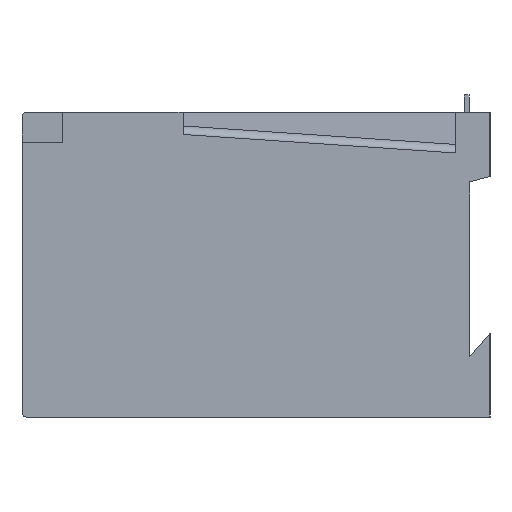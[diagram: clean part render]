
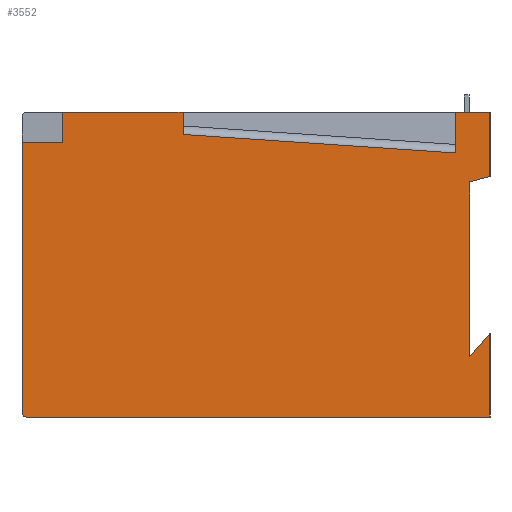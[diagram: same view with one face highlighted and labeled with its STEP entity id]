
A CAD part, left-side view. The second image highlights one B-rep face of the part: STEP entity #3552.
In plain terms, the highlighted planar face has unit normal (-1, 0, 0).
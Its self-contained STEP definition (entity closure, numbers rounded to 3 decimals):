
#114 = CARTESIAN_POINT ( 'NONE',  ( -55.5, 109., -34.5 ) ) ;
#129 = CARTESIAN_POINT ( 'NONE',  ( -55.5, 0., -16. ) ) ;
#180 = CARTESIAN_POINT ( 'NONE',  ( -55.5, 71.5, 30.3 ) ) ;
#196 = DIRECTION ( 'NONE',  ( 0., 0., -1. ) ) ;
#197 = DIRECTION ( 'NONE',  ( -1., 0., 0. ) ) ;
#198 = CARTESIAN_POINT ( 'NONE',  ( -55.5, 108., -34.5 ) ) ;
#199 = DIRECTION ( 'NONE',  ( 0., -1., 0. ) ) ;
#200 = VECTOR ( 'NONE', #199, 1000. ) ;
#201 = CARTESIAN_POINT ( 'NONE',  ( -55.5, 109., -35.5 ) ) ;
#202 = LINE ( 'NONE', #201, #200 ) ;
#205 = DIRECTION ( 'NONE',  ( 0., 0.967, -0.254 ) ) ;
#206 = VECTOR ( 'NONE', #205, 1000. ) ;
#207 = CARTESIAN_POINT ( 'NONE',  ( -55.5, 4.75, 19.25 ) ) ;
#208 = LINE ( 'NONE', #207, #206 ) ;
#209 = AXIS2_PLACEMENT_3D ( 'NONE', #198, #197, #196 ) ;
#210 = CARTESIAN_POINT ( 'NONE',  ( -55.5, 108., -35.5 ) ) ;
#219 = CIRCLE ( 'NONE', #209, 1. ) ;
#221 = CARTESIAN_POINT ( 'NONE',  ( -55.5, 71.5, 35.5 ) ) ;
#225 = DIRECTION ( 'NONE',  ( 0., 0., 1. ) ) ;
#226 = VECTOR ( 'NONE', #225, 1000. ) ;
#227 = CARTESIAN_POINT ( 'NONE',  ( -55.5, 0., -35.5 ) ) ;
#228 = LINE ( 'NONE', #227, #226 ) ;
#232 = DIRECTION ( 'NONE',  ( 0., 0., 1. ) ) ;
#233 = VECTOR ( 'NONE', #232, 1000. ) ;
#234 = CARTESIAN_POINT ( 'NONE',  ( -55.5, 109., -35.5 ) ) ;
#237 = LINE ( 'NONE', #234, #233 ) ;
#238 = DIRECTION ( 'NONE',  ( 0., 0., 1. ) ) ;
#239 = VECTOR ( 'NONE', #238, 1000. ) ;
#240 = CARTESIAN_POINT ( 'NONE',  ( -55.5, 99.5, 28.5 ) ) ;
#241 = CARTESIAN_POINT ( 'NONE',  ( -55.5, 99.5, 35.5 ) ) ;
#242 = LINE ( 'NONE', #241, #239 ) ;
#250 = DIRECTION ( 'NONE',  ( 0., 1., 0. ) ) ;
#251 = VECTOR ( 'NONE', #250, 1000. ) ;
#252 = CARTESIAN_POINT ( 'NONE',  ( -55.5, 99.5, 28.5 ) ) ;
#254 = LINE ( 'NONE', #252, #251 ) ;
#255 = DIRECTION ( 'NONE',  ( 0., 0., 1. ) ) ;
#256 = VECTOR ( 'NONE', #255, 1000. ) ;
#257 = CARTESIAN_POINT ( 'NONE',  ( -55.5, 71.5, 35.5 ) ) ;
#258 = LINE ( 'NONE', #257, #256 ) ;
#261 = AXIS2_PLACEMENT_3D ( 'NONE', #302, #290, #289 ) ;
#270 = DIRECTION ( 'NONE',  ( 0., 0., 1. ) ) ;
#271 = VECTOR ( 'NONE', #270, 1000. ) ;
#275 = CARTESIAN_POINT ( 'NONE',  ( -55.5, 0., -35.5 ) ) ;
#276 = LINE ( 'NONE', #275, #271 ) ;
#289 = DIRECTION ( 'NONE',  ( 0., 0., -1. ) ) ;
#290 = DIRECTION ( 'NONE',  ( 1., 0., 0. ) ) ;
#292 = CARTESIAN_POINT ( 'NONE',  ( -55.5, 0., 20.5 ) ) ;
#295 = DIRECTION ( 'NONE',  ( 0., -1., 0. ) ) ;
#296 = VECTOR ( 'NONE', #295, 1000. ) ;
#297 = CARTESIAN_POINT ( 'NONE',  ( -55.5, 109., 35.5 ) ) ;
#298 = LINE ( 'NONE', #297, #296 ) ;
#299 = PLANE ( 'NONE',  #261 ) ;
#302 = CARTESIAN_POINT ( 'NONE',  ( -55.5, 109., -35.5 ) ) ;
#307 = FACE_OUTER_BOUND ( 'NONE', #3508, .T. ) ;
#308 = CARTESIAN_POINT ( 'NONE',  ( -55.5, 4.75, 19.25 ) ) ;
#317 = CARTESIAN_POINT ( 'NONE',  ( -55.5, 99.5, 35.5 ) ) ;
#318 = CARTESIAN_POINT ( 'NONE',  ( -55.5, 0., 35.5 ) ) ;
#332 = LINE ( 'NONE', #5320, #3483 ) ;
#335 = DIRECTION ( 'NONE',  ( 0., 0., -1. ) ) ;
#336 = VECTOR ( 'NONE', #335, 1000. ) ;
#341 = CARTESIAN_POINT ( 'NONE',  ( -55.5, 4.75, -21.5 ) ) ;
#342 = LINE ( 'NONE', #341, #336 ) ;
#343 = DIRECTION ( 'NONE',  ( 0., 0., 1. ) ) ;
#344 = VECTOR ( 'NONE', #343, 1000. ) ;
#345 = CARTESIAN_POINT ( 'NONE',  ( -55.5, 8., 35.5 ) ) ;
#346 = LINE ( 'NONE', #345, #344 ) ;
#358 = CARTESIAN_POINT ( 'NONE',  ( -55.5, 0., -35.5 ) ) ;
#360 = CARTESIAN_POINT ( 'NONE',  ( -55.5, 109., 28.5 ) ) ;
#373 = CARTESIAN_POINT ( 'NONE',  ( -55.5, 4.75, -21.5 ) ) ;
#374 = DIRECTION ( 'NONE',  ( 0., -1., 0. ) ) ;
#375 = VECTOR ( 'NONE', #374, 1000. ) ;
#379 = CARTESIAN_POINT ( 'NONE',  ( -55.5, 109., 35.5 ) ) ;
#380 = LINE ( 'NONE', #379, #375 ) ;
#381 = DIRECTION ( 'NONE',  ( 0., 0.998, 0.068 ) ) ;
#382 = VECTOR ( 'NONE', #381, 1000. ) ;
#383 = CARTESIAN_POINT ( 'NONE',  ( -55.5, 8., 26. ) ) ;
#388 = CARTESIAN_POINT ( 'NONE',  ( -55.5, 8., 35.5 ) ) ;
#389 = CARTESIAN_POINT ( 'NONE',  ( -55.5, 8., 26. ) ) ;
#390 = LINE ( 'NONE', #383, #382 ) ;
#3441 = VERTEX_POINT ( 'NONE', #129 ) ;
#3450 = ORIENTED_EDGE ( 'NONE', *, *, #3574, .F. ) ;
#3467 = VERTEX_POINT ( 'NONE', #114 ) ;
#3483 = VECTOR ( 'NONE', #5271, 1000. ) ;
#3488 = ORIENTED_EDGE ( 'NONE', *, *, #3519, .F. ) ;
#3490 = ORIENTED_EDGE ( 'NONE', *, *, #3507, .T. ) ;
#3493 = ORIENTED_EDGE ( 'NONE', *, *, #3524, .T. ) ;
#3497 = VERTEX_POINT ( 'NONE', #180 ) ;
#3502 = VERTEX_POINT ( 'NONE', #221 ) ;
#3503 = EDGE_CURVE ( 'NONE', #3567, #3551, #208, .T. ) ;
#3506 = VERTEX_POINT ( 'NONE', #210 ) ;
#3507 = EDGE_CURVE ( 'NONE', #3467, #3506, #219, .T. ) ;
#3508 = EDGE_LOOP ( 'NONE', ( #3541, #3561, #3488, #3553, #3565, #3490, #3509, #3493, #3450, #3587, #3575, #3568, #3566, #3578, #3577 ) ) ;
#3509 = ORIENTED_EDGE ( 'NONE', *, *, #3513, .T. ) ;
#3513 = EDGE_CURVE ( 'NONE', #3506, #3560, #202, .T. ) ;
#3514 = EDGE_CURVE ( 'NONE', #3497, #3502, #258, .T. ) ;
#3515 = EDGE_CURVE ( 'NONE', #3520, #3558, #254, .T. ) ;
#3519 = EDGE_CURVE ( 'NONE', #3520, #3542, #242, .T. ) ;
#3520 = VERTEX_POINT ( 'NONE', #240 ) ;
#3521 = EDGE_CURVE ( 'NONE', #3467, #3558, #237, .T. ) ;
#3524 = EDGE_CURVE ( 'NONE', #3560, #3441, #228, .T. ) ;
#3529 = EDGE_CURVE ( 'NONE', #3567, #3540, #276, .T. ) ;
#3540 = VERTEX_POINT ( 'NONE', #318 ) ;
#3541 = ORIENTED_EDGE ( 'NONE', *, *, #3514, .T. ) ;
#3542 = VERTEX_POINT ( 'NONE', #317 ) ;
#3550 = EDGE_CURVE ( 'NONE', #3542, #3502, #298, .T. ) ;
#3551 = VERTEX_POINT ( 'NONE', #308 ) ;
#3552 = ADVANCED_FACE ( 'NONE', ( #307 ), #299, .F. ) ;
#3553 = ORIENTED_EDGE ( 'NONE', *, *, #3515, .T. ) ;
#3558 = VERTEX_POINT ( 'NONE', #360 ) ;
#3560 = VERTEX_POINT ( 'NONE', #358 ) ;
#3561 = ORIENTED_EDGE ( 'NONE', *, *, #3550, .F. ) ;
#3565 = ORIENTED_EDGE ( 'NONE', *, *, #3521, .F. ) ;
#3566 = ORIENTED_EDGE ( 'NONE', *, *, #3586, .F. ) ;
#3567 = VERTEX_POINT ( 'NONE', #292 ) ;
#3568 = ORIENTED_EDGE ( 'NONE', *, *, #3529, .T. ) ;
#3571 = EDGE_CURVE ( 'NONE', #3579, #3584, #346, .T. ) ;
#3572 = EDGE_CURVE ( 'NONE', #3551, #3590, #342, .T. ) ;
#3574 = EDGE_CURVE ( 'NONE', #3590, #3441, #332, .T. ) ;
#3575 = ORIENTED_EDGE ( 'NONE', *, *, #3503, .F. ) ;
#3577 = ORIENTED_EDGE ( 'NONE', *, *, #3582, .T. ) ;
#3578 = ORIENTED_EDGE ( 'NONE', *, *, #3571, .F. ) ;
#3579 = VERTEX_POINT ( 'NONE', #389 ) ;
#3582 = EDGE_CURVE ( 'NONE', #3579, #3497, #390, .T. ) ;
#3584 = VERTEX_POINT ( 'NONE', #388 ) ;
#3586 = EDGE_CURVE ( 'NONE', #3584, #3540, #380, .T. ) ;
#3587 = ORIENTED_EDGE ( 'NONE', *, *, #3572, .F. ) ;
#3590 = VERTEX_POINT ( 'NONE', #373 ) ;
#5271 = DIRECTION ( 'NONE',  ( 0., -0.654, 0.757 ) ) ;
#5320 = CARTESIAN_POINT ( 'NONE',  ( -55.5, 0., -16. ) ) ;
